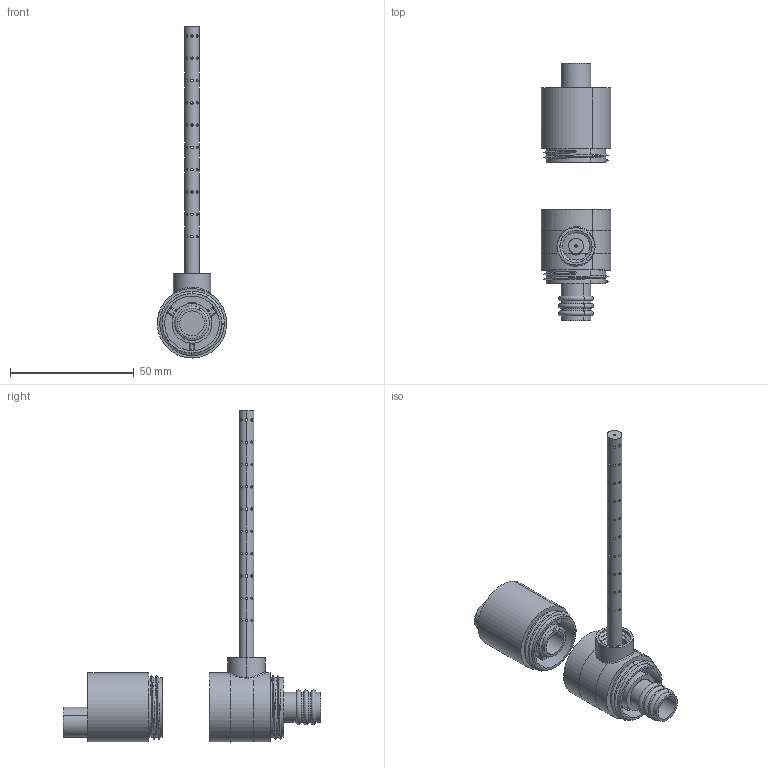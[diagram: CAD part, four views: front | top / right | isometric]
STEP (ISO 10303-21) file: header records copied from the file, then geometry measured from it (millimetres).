
FILE_DESCRIPTION(/* description */ (''),/* implementation_level */ '2;1');
FILE_NAME(/* name */ 'rincepot_sortie_x_t.prt.stp',/* time_stamp */ '2018-01-29T11:23:07+01:00',/* author */ (''),/* organization */ (''),/* preprocessor_version */ 'ST-DEVELOPER v16',/* originating_system */ 'SIEMENS PLM Software NX 11.0',/* authorisation */ '');
FILE_SCHEMA (('AUTOMOTIVE_DESIGN { 1 0 10303 214 3 1 1 1 }'));
Length unit declared in the file: millimetre
Products named in the file (7): Body.2_id9_x_t; PartBody_2__id16_x_t; PartBody_id24_x_t; sortie_id6_x_t; sortie_id13_x_t; sortie_id21_x_t; sortie_x_t
Assembly tree (6 placements, depth 3):
  sortie_x_t
    sortie_id21_x_t
      PartBody_id24_x_t
    sortie_id13_x_t
      PartBody_2__id16_x_t
    sortie_id6_x_t
      Body.2_id9_x_t
Bounding box: 28 x 104 x 134 mm (x, y, z)
Volume: 25660.2 mm3; surface area: 26034.9 mm2
Topology: 3 solids, 3 shells, 651 faces, 2009 edges, 1333 vertices
Faces by surface type: cylinder 313, bspline 241, plane 67, torus 30
Entity records: 45414 total; most frequent: CARTESIAN_POINT 31757, ORIENTED_EDGE 4006, EDGE_CURVE 2003, B_SPLINE_CURVE_WITH_KNOTS 2003, VERTEX_POINT 1332, DIRECTION 834, EDGE_LOOP 809, ADVANCED_FACE 650
